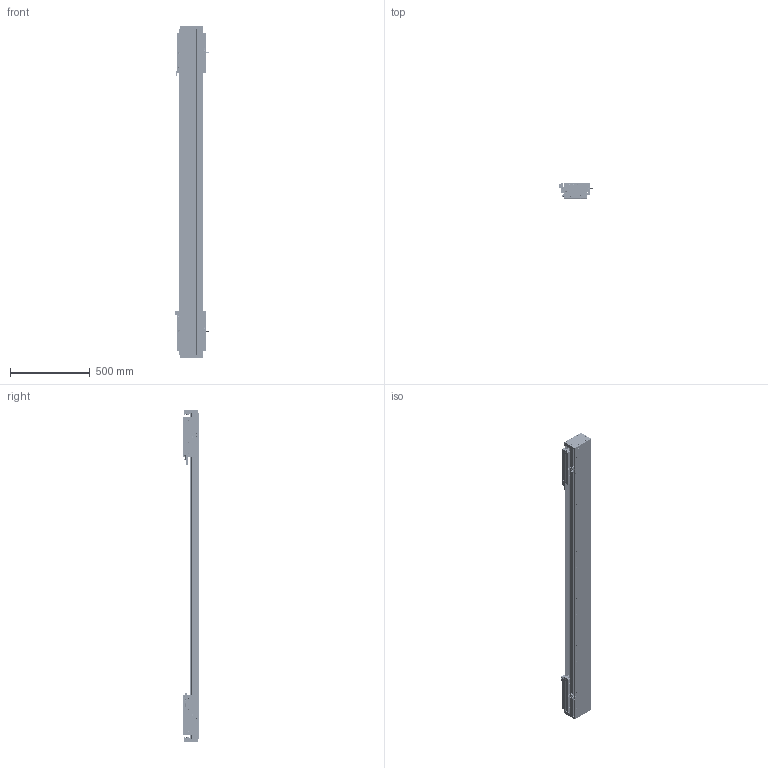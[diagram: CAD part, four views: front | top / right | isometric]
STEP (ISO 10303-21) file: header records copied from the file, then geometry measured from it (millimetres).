
FILE_DESCRIPTION (( 'STEP AP203' ), '1' );
FILE_NAME ('DA-C145-2-C3-T1460-C010-0.2 眻盄萇儂.STEP', '2025-08-13T10:21:03', ( '' ), ( '' ), 'SwSTEP 2.0', 'SolidWorks 2019', '' );
FILE_SCHEMA (( 'CONFIG_CONTROL_DESIGN' ));
Length unit declared in the file: millimetre
Products named in the file (38): 复件 DA145-C3-DK-00 挡块^CU145-W 滚珠滑台; 复件 纯铜油杯 6x6mm^CU145-W 滚珠滑台; 66245-CU145-HT-W-00 賑雄怢啣(3D芞祧)(00); 复件 DA146 钢带垫块^复件 CU145 钢带组件_DA-C145-2-C3-T-C010-0.2; 葩璃 PM-Y65^DA-C145-2-C3-T-C010-0.2; CU145-W-00 珨极趙賑雄怢啣-1; CU145-W 幗紩賑怢-1; 葩璃 鞠褒情蹟譫 M3^DA-C145-2-C3-T-C010-0.2; DKW-GYP-ZJ-00 笢潔嫖萇覜茼え; 复件 半圆头内六角螺钉 M3×6^CU145-W 滚珠滑台; DKW-KGZ-ZJ-00 中间光电开关支架; IU-CU145-L 菁釱絳寢; 葩璃 XD-U-02L 棠掑喜^DA-C145-2-C3-T-C010-0.2; DKW168-HXJ-ZJ-00 笢潔滅袉砎蝶; 复件 DA145-C3-YB-A-00 压板A^CU145-W 滚珠滑台; 葩璃 DA145-C3-DP-A-00 菜えA^CU145-W 幗紩賑怢; 葩璃 CKMA01-W060-TRL^DA-C145-2-C3-T-C010-0.2; DA-C145-2-C3-T1460-C010-0.2 眻盄萇儂; 复件 DA146 钢带拉块^复件 CU145 钢带组件_DA-C145-2-C3-T-C010-0.2; 复件 DA95-MFP-01 密封片^CU145-W 滚珠滑台; 葩璃 DA95-GT-T-00^IU-CU145-L 菁釱絳寢; IU-CU145-L-00 菁釱(L2040); 复件 DA145 钢带^复件 CU145 钢带组件_DA-C145-2-C3-T-C010-0.2; 复件 DA145-C3-YB-B-00 压板B^CU145-W 滚珠滑台; CU145-W-00 珨极趙賑雄怢啣; 葩璃 PM-T45^DA-C145-2-C3-T-C010-0.2; 葩璃 DMA-010-0.2 黍杅芛^DA-C145-2-C3-T-C010-0.2; 复件 内六角平端紧定螺钉 GB.T77-2000 M5×10^CU145-W 滚珠滑台; 复件 DA95-HK-GT-00 滑块钢轨^CU145-W-00 一体化滑动台板; 葩璃 CKM03-W060-C1C2-TP-0.2^DA-C145-2-C3-T-C010-0.2; 复件 DA145-DG 钢带端盖^复件 CU145 钢带组件_DA-C145-2-C3-T-C010-0.2; 葩璃 CU145 詩湍郪璃^DA-C145-2-C3-T-C010-0.2; CU145-W 幗紩賑怢; 复件 DA95-DB-00  挡板^CU145-W 滚珠滑台; TAY01-M8; 葩璃 DA145-C3-DP-B-00 菜えB^CU145-W 幗紩賑怢; 复件 DA145-GYP-00 光电感应片^DA-C145-2-C3-T-C010-0.2; 葩璃 DA95-HXJ-00 遣喳砎蝶^DA-C145-2-C3-T-C010-0.2
Assembly tree (180 placements, depth 4):
  DA-C145-2-C3-T1460-C010-0.2 眻盄萇儂
    IU-CU145-L 菁釱絳寢
      IU-CU145-L-00 菁釱(L2040)
      葩璃 DA95-GT-T-00^IU-CU145-L 菁釱絳寢  x4
    葩璃 CU145 詩湍郪璃^DA-C145-2-C3-T-C010-0.2
      复件 DA145-DG 钢带端盖^复件 CU145 钢带组件_DA-C145-2-C3-T-C010-0.2  x2
      复件 DA146 钢带拉块^复件 CU145 钢带组件_DA-C145-2-C3-T-C010-0.2  x2
      复件 DA146 钢带垫块^复件 CU145 钢带组件_DA-C145-2-C3-T-C010-0.2  x2
      复件 DA145 钢带^复件 CU145 钢带组件_DA-C145-2-C3-T-C010-0.2
    CU145-W 幗紩賑怢
      CU145-W-00 珨极趙賑雄怢啣
        66245-CU145-HT-W-00 賑雄怢啣(3D芞祧)(00)
        复件 DA95-HK-GT-00 滑块钢轨^CU145-W-00 一体化滑动台板  x8
      复件 DA95-MFP-01 密封片^CU145-W 滚珠滑台  x8
      复件 DA95-DB-00  挡板^CU145-W 滚珠滑台  x8
      复件 内六角平端紧定螺钉 GB.T77-2000 M5×10^CU145-W 滚珠滑台  x4
      复件 纯铜油杯 6x6mm^CU145-W 滚珠滑台  x4
      复件 半圆头内六角螺钉 M3×6^CU145-W 滚珠滑台  x16
      复件 DA145-C3-DK-00 挡块^CU145-W 滚珠滑台  x4
      葩璃 DA145-C3-DP-B-00 菜えB^CU145-W 幗紩賑怢  x2
      复件 DA145-C3-YB-B-00 压板B^CU145-W 滚珠滑台  x2
      葩璃 DA145-C3-DP-A-00 菜えA^CU145-W 幗紩賑怢  x3
      复件 DA145-C3-YB-A-00 压板A^CU145-W 滚珠滑台  x3
      TAY01-M8  x4
    CU145-W 幗紩賑怢-1
      CU145-W-00 珨极趙賑雄怢啣-1
        66245-CU145-HT-W-00 賑雄怢啣(3D芞祧)(00)
        复件 DA95-HK-GT-00 滑块钢轨^CU145-W-00 一体化滑动台板  x8
      复件 DA95-MFP-01 密封片^CU145-W 滚珠滑台  x8
      复件 DA95-DB-00  挡板^CU145-W 滚珠滑台  x8
      复件 内六角平端紧定螺钉 GB.T77-2000 M5×10^CU145-W 滚珠滑台  x4
      复件 纯铜油杯 6x6mm^CU145-W 滚珠滑台  x4
      复件 半圆头内六角螺钉 M3×6^CU145-W 滚珠滑台  x16
      复件 DA145-C3-DK-00 挡块^CU145-W 滚珠滑台  x4
      葩璃 DA145-C3-DP-B-00 菜えB^CU145-W 幗紩賑怢  x2
      复件 DA145-C3-YB-B-00 压板B^CU145-W 滚珠滑台  x2
      葩璃 DA145-C3-DP-A-00 菜えA^CU145-W 幗紩賑怢  x3
      复件 DA145-C3-YB-A-00 压板A^CU145-W 滚珠滑台  x3
      TAY01-M8  x4
    葩璃 CKMA01-W060-TRL^DA-C145-2-C3-T-C010-0.2
    葩璃 PM-T45^DA-C145-2-C3-T-C010-0.2  x4
    葩璃 XD-U-02L 棠掑喜^DA-C145-2-C3-T-C010-0.2
    葩璃 DA95-HXJ-00 遣喳砎蝶^DA-C145-2-C3-T-C010-0.2  x4
    葩璃 CKM03-W060-C1C2-TP-0.2^DA-C145-2-C3-T-C010-0.2  x2
    葩璃 DMA-010-0.2 黍杅芛^DA-C145-2-C3-T-C010-0.2  x2
    复件 DA145-GYP-00 光电感应片^DA-C145-2-C3-T-C010-0.2  x2
    DKW-GYP-ZJ-00 笢潔嫖萇覜茼え
    DKW-KGZ-ZJ-00 中间光电开关支架
    葩璃 PM-Y65^DA-C145-2-C3-T-C010-0.2
    葩璃 鞠褒情蹟譫 M3^DA-C145-2-C3-T-C010-0.2  x8
    DKW168-HXJ-ZJ-00 笢潔滅袉砎蝶
Bounding box: 213.7 x 108.45 x 2076 mm (x, y, z)
Volume: 12176867.9 mm3; surface area: 3746024.4 mm2
Topology: 175 solids, 239 shells, 7354 faces, 19581 edges, 12073 vertices
Faces by surface type: cylinder 3073, plane 2941, cone 1184, torus 140, sphere 8, bspline 8
Entity records: 127380 total; most frequent: CARTESIAN_POINT 34784, ORIENTED_EDGE 17848, DIRECTION 17421, EDGE_CURVE 8924, AXIS2_PLACEMENT_3D 6389, VERTEX_POINT 5772, VECTOR 4643, LINE 4643
